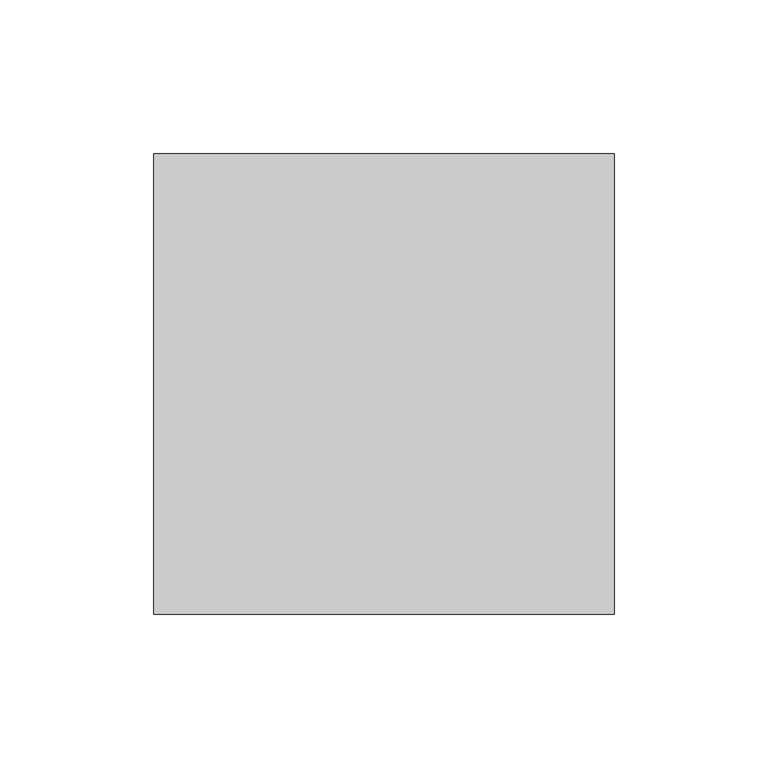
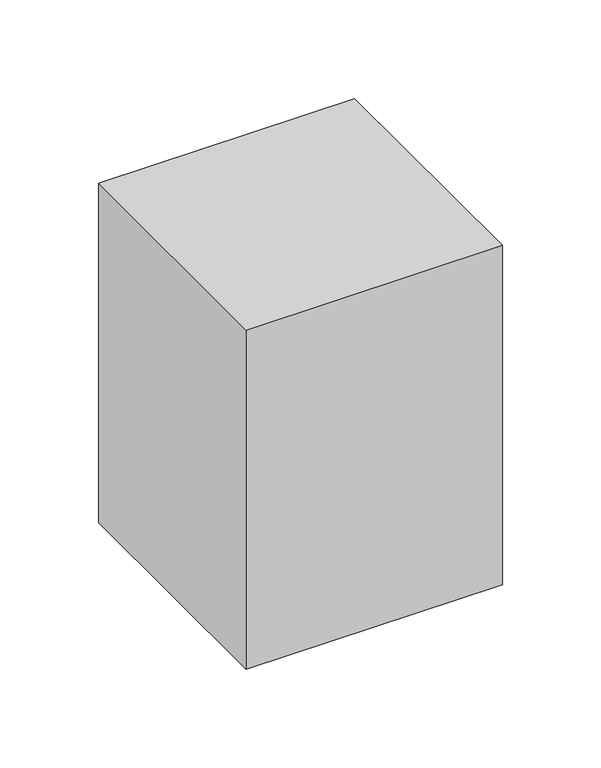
"""IFC4 building model written with IfcOpenShell, lengths in millimetres: proxy geometry, Брус : 150х150."""

import ifcopenshell
import ifcopenshell.guid

model = None  # the IFC model being written
_history = None  # IfcOwnerHistory: only IFC2X3 demands one
_inside = {}  # id of a spatial element -> (the spatial element, [elements in it])
_under = {}  # id of a project, library or spatial element -> (it, [spatial elements below it])
_declared = {}  # id of a project -> (the project, [libraries it declares])
_typed = {}  # id of a type object -> (the type object, [elements of that type])
_made_of = {}  # id of a material, layer set ... -> (it, [elements and type objects made of it])


def new_model(schema):
    """Start an empty IFC model of exactly this schema.

    Asked for "IFC4X3", IfcOpenShell would pick the latest addendum, in which some entities
    have other attributes; the version numbers below select the first issue.
    IFC2X3 requires an IfcOwnerHistory on every rooted entity: one is made here for all.
    """
    global model, _history
    if schema == "IFC4X3":
        model = ifcopenshell.file(schema_version=(4, 3, 0, 0))
    else:
        model = ifcopenshell.file(schema=schema)
    _inside.clear()
    _under.clear()
    _declared.clear()
    _typed.clear()
    _made_of.clear()
    _history = None
    if model.schema == "IFC2X3":
        org = make("IfcOrganization", Name="unknown")
        user = make(
            "IfcPersonAndOrganization",
            ThePerson=make("IfcPerson", FamilyName="unknown"),
            TheOrganization=org,
        )
        app = make(
            "IfcApplication",
            ApplicationDeveloper=org,
            Version="unknown",
            ApplicationFullName="unknown",
            ApplicationIdentifier="unknown",
        )
        _history = make(
            "IfcOwnerHistory",
            OwningUser=user,
            OwningApplication=app,
            ChangeAction="ADDED",
            CreationDate=0,
        )
    return model


def make(cls, **values):
    """One entity of the class cls with the attributes given. An attribute that is None is left unset."""
    return model.create_entity(
        cls, **{name: value for name, value in values.items() if value is not None}
    )


def rooted(cls, **values):
    """An entity with a GlobalId (a new one), such as an element, a storey or a relation."""
    return make(cls, GlobalId=ifcopenshell.guid.new(), OwnerHistory=_history, **values)


def si_unit(unit_type, name, prefix=None):
    """IfcSIUnit, for example si_unit("LENGTHUNIT", "METRE", prefix="MILLI")."""
    return make("IfcSIUnit", UnitType=unit_type, Prefix=prefix, Name=name)


def assignment(units):
    """IfcUnitAssignment: the units of a project."""
    return None if units is None else make("IfcUnitAssignment", Units=units)


def point(xyz):
    """IfcCartesianPoint."""
    return None if xyz is None else make("IfcCartesianPoint", Coordinates=xyz)


def direction(xyz):
    """IfcDirection."""
    return None if xyz is None else make("IfcDirection", DirectionRatios=xyz)


def frame(location, z_axis=None, x_axis=None):
    """IfcAxis2Placement3D, a coordinate frame: its origin and axes. An axis left out is left unset."""
    return make(
        "IfcAxis2Placement3D",
        Location=point(location),
        Axis=direction(z_axis),
        RefDirection=direction(x_axis),
    )


def origin():
    """The frame at (0, 0, 0) with its axes left unset."""
    return frame((0.0, 0.0, 0.0))


def origin_with_axes():
    """The frame at (0, 0, 0) with the z axis (0, 0, 1) and the x axis (1, 0, 0) written out."""
    return frame((0.0, 0.0, 0.0), z_axis=(0.0, 0.0, 1.0), x_axis=(1.0, 0.0, 0.0))


def place(relative_to, where):
    """IfcLocalPlacement: puts the frame where relative to a parent placement (None: the world)."""
    return make(
        "IfcLocalPlacement", PlacementRelTo=relative_to, RelativePlacement=where
    )


def context(
    kind, dimensions, precision=None, world=None, true_north=None, identifier=None
):
    """IfcGeometricRepresentationContext, for example the 3D "Model" context."""
    return make(
        "IfcGeometricRepresentationContext",
        ContextIdentifier=identifier,
        ContextType=kind,
        CoordinateSpaceDimension=dimensions,
        Precision=precision,
        WorldCoordinateSystem=world,
        TrueNorth=true_north,
    )


def project(units=None, contexts=None):
    """IfcProject with its units and contexts."""
    return rooted(
        "IfcProject",
        Name="project",
        RepresentationContexts=contexts,
        UnitsInContext=assignment(units),
    )


def spatial(cls, under=None, at=None, **own):
    """A site, building, storey or space (cls), placed at a placement, below another one or the project."""
    s = rooted(cls, ObjectPlacement=at, **own)
    if under is not None:
        _under.setdefault(under.id(), (under, []))[1].append(s)
    return s


def polyline(points):
    """IfcPolyline through the points."""
    return make("IfcPolyline", Points=[point(p) for p in points])


def outline(outer, holes=None, kind="AREA"):
    """IfcArbitraryClosedProfileDef: a profile drawn as a closed curve; with holes, ...WithVoids."""
    if holes is None:
        return make("IfcArbitraryClosedProfileDef", ProfileType=kind, OuterCurve=outer)
    return make(
        "IfcArbitraryProfileDefWithVoids",
        ProfileType=kind,
        OuterCurve=outer,
        InnerCurves=holes,
    )


def extrude(swept, where, along, depth):
    """IfcExtrudedAreaSolid: the profile swept, set in the frame where, extruded along a direction by depth."""
    return make(
        "IfcExtrudedAreaSolid",
        SweptArea=swept,
        Position=where,
        ExtrudedDirection=direction(along),
        Depth=depth,
    )


def shape(context_of_items, identifier, shape_type, items):
    """IfcShapeRepresentation: the items that make up one representation, for example the "Body"."""
    return make(
        "IfcShapeRepresentation",
        ContextOfItems=context_of_items,
        RepresentationIdentifier=identifier,
        RepresentationType=shape_type,
        Items=items,
    )


def source(mapping_origin, context_of_items, identifier, shape_type, items):
    """IfcRepresentationMap: a shape defined once, which mapped items show again and again."""
    return make(
        "IfcRepresentationMap",
        MappingOrigin=mapping_origin,
        MappedRepresentation=shape(context_of_items, identifier, shape_type, items),
    )


def transform(
    local_origin,
    x_axis=None,
    y_axis=None,
    z_axis=None,
    scale=None,
    scale2=None,
    scale3=None,
    uniform=True,
):
    """IfcCartesianTransformationOperator3D, or its non-uniform kind. x_axis, y_axis, z_axis: its Axis1, 2, 3."""
    if uniform:
        return make(
            "IfcCartesianTransformationOperator3D",
            Axis1=direction(x_axis),
            Axis2=direction(y_axis),
            LocalOrigin=point(local_origin),
            Scale=scale,
            Axis3=direction(z_axis),
        )
    return make(
        "IfcCartesianTransformationOperator3DnonUniform",
        Axis1=direction(x_axis),
        Axis2=direction(y_axis),
        LocalOrigin=point(local_origin),
        Scale=scale,
        Axis3=direction(z_axis),
        Scale2=scale2,
        Scale3=scale3,
    )


def mapped(mapping_source, mapping_target):
    """IfcMappedItem: shows the shape of a source again, moved by a transform."""
    return make(
        "IfcMappedItem", MappingSource=mapping_source, MappingTarget=mapping_target
    )


def made_of(thing, what):
    """Note that an element or type object is made of a material, layer set ...; save() writes the relation."""
    if what is not None:
        _made_of.setdefault(what.id(), (what, []))[1].append(thing)
    return thing


def element(
    cls,
    number,
    at=None,
    inside=None,
    cuts=None,
    type_object=None,
    material=None,
    context=None,
    identifier="Body",
    shape_type=None,
    held_by="IfcProductDefinitionShape",
    body=None,
    shapes=None,
    **own,
):
    """One element of the class cls, such as IfcWall. Its Tag is "e" and its number.

    at: its placement. inside: the storey or other place that contains it. cuts: it is an
    opening in that element (IfcRelVoidsElement). A single representation is given by context,
    identifier, shape_type and body (its items); several are given by shapes. held_by: the class
    of the entity that holds the representations. save() writes the other relations.
    """
    e = rooted(cls, Tag="e%d" % number, ObjectPlacement=at, **own)
    if body is not None:
        shapes = [shape(context, identifier, shape_type, body)]
    if shapes is not None:
        e.Representation = make(held_by, Representations=shapes)
    if inside is not None:
        _inside.setdefault(inside.id(), (inside, []))[1].append(e)
    if cuts is not None:
        rooted(
            "IfcRelVoidsElement", RelatingBuildingElement=cuts, RelatedOpeningElement=e
        )
    if type_object is not None:
        _typed.setdefault(type_object.id(), (type_object, []))[1].append(e)
    return made_of(e, material)


def aggregate(whole, parts):
    """IfcRelAggregates: a whole, such as a stair, and the parts it consists of."""
    return rooted("IfcRelAggregates", RelatingObject=whole, RelatedObjects=parts)


def save(model, path):
    """Write the relations noted so far, then the file.

    IfcRelAggregates (storeys below a building ...), IfcRelContainedInSpatialStructure (elements
    in a storey), IfcRelDefinesByType, IfcRelAssociatesMaterial and IfcRelDeclares: one each for
    every whole, place, type object, material and project.
    """
    for whole, parts in _under.values():
        aggregate(whole, parts)
    for where, things in _inside.values():
        rooted(
            "IfcRelContainedInSpatialStructure",
            RelatedElements=things,
            RelatingStructure=where,
        )
    for kind, things in _typed.values():
        rooted("IfcRelDefinesByType", RelatedObjects=things, RelatingType=kind)
    for what, things in _made_of.values():
        rooted("IfcRelAssociatesMaterial", RelatedObjects=things, RelatingMaterial=what)
    for by, libraries in _declared.values():
        rooted("IfcRelDeclares", RelatingContext=by, RelatedDefinitions=libraries)
    model.write(path)


def generic_models_b17718e9(model_context):
    return source(origin(), model_context, "Body", "SweptSolid", [
        extrude(outline(polyline([(150.0, 0.0), (0.0, 0.0), (0.0, 150.0), (150.0, 150.0), (150.0, 0.0)])), origin_with_axes(), (0.0, 0.0, 1.0), 210.0),
    ])


if __name__ == "__main__":
    model = new_model("IFC4")
    model_context = context("Model", 3, world=origin())
    ifc_project = project(units=[si_unit("LENGTHUNIT", "METRE", prefix="MILLI")], contexts=[model_context])
    site = spatial("IfcSite", under=ifc_project)
    building = spatial("IfcBuilding", under=site)
    placement = place(None, origin())
    generic_models_shape = generic_models_b17718e9(model_context)
    element("IfcBuildingElementProxy", 1, Name="Брус : 150х150", ObjectType="Брус : 150х150", at=placement, inside=building, context=model_context, shape_type="MappedRepresentation", body=[
        mapped(generic_models_shape, transform((0.0, 0.0, 0.0), x_axis=(1.0, 0.0, 0.0), y_axis=(0.0, 1.0, 0.0), z_axis=(0.0, 0.0, 1.0))),
    ])
    save(model, "model.ifc")
